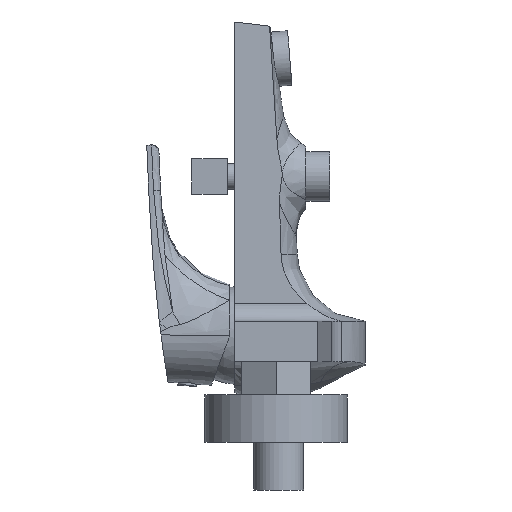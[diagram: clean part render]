
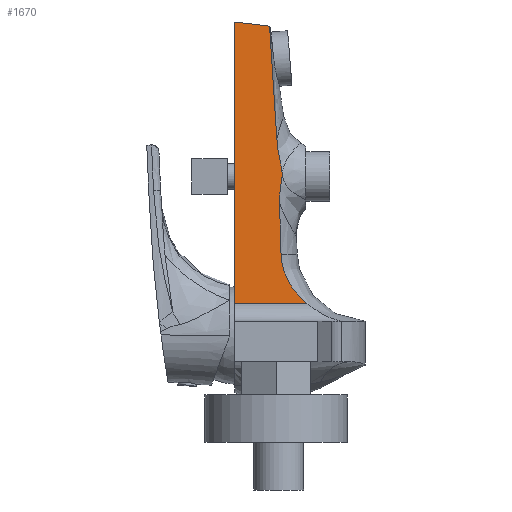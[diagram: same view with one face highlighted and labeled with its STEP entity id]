
A CAD part, left-side view. The second image highlights one B-rep face of the part: STEP entity #1670.
In plain terms, the highlighted planar face has unit normal (-0.999, 0, 0.042).
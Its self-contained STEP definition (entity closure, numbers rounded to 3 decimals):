
#54=B_SPLINE_CURVE_WITH_KNOTS('',3,(#2487,#2488,#2489,#2490,#2491,#2492,
#2493,#2494),.UNSPECIFIED.,.F.,.F.,(4,2,2,4),(0.,0.96,2.009,
2.404),.UNSPECIFIED.);
#55=B_SPLINE_CURVE_WITH_KNOTS('',3,(#2496,#2497,#2498,#2499),
 .UNSPECIFIED.,.F.,.F.,(4,4),(0.222,0.392),
 .UNSPECIFIED.);
#56=B_SPLINE_CURVE_WITH_KNOTS('',3,(#2501,#2502,#2503,#2504,#2505,#2506,
#2507,#2508,#2509,#2510,#2511,#2512,#2513,#2514,#2515,#2516,#2517,#2518,
#2519,#2520,#2521,#2522,#2523,#2524,#2525,#2526),.UNSPECIFIED.,.F.,.F.,
(4,2,2,2,2,2,2,2,2,2,2,2,4),(0.,0.272,1.08,1.845,
1.894,1.917,1.934,1.952,1.98,
2.061,2.188,2.607,3.653),
 .UNSPECIFIED.);
#57=B_SPLINE_CURVE_WITH_KNOTS('',3,(#2528,#2529,#2530,#2531,#2532,#2533),
 .UNSPECIFIED.,.F.,.F.,(4,2,4),(0.612,0.727,1.),
 .UNSPECIFIED.);
#210=FACE_OUTER_BOUND('',#307,.T.);
#307=EDGE_LOOP('',(#1087,#1088,#1089,#1090,#1091,#1092,#1093));
#424=LINE('',#2481,#537);
#426=LINE('',#2535,#539);
#427=LINE('',#2536,#540);
#537=VECTOR('',#1970,10.);
#539=VECTOR('',#1976,10.);
#540=VECTOR('',#1977,10.);
#656=VERTEX_POINT('',#2457);
#657=VERTEX_POINT('',#2480);
#659=VERTEX_POINT('',#2486);
#660=VERTEX_POINT('',#2495);
#661=VERTEX_POINT('',#2500);
#662=VERTEX_POINT('',#2527);
#663=VERTEX_POINT('',#2534);
#826=EDGE_CURVE('',#656,#657,#424,.T.);
#829=EDGE_CURVE('',#656,#659,#54,.F.);
#830=EDGE_CURVE('',#659,#660,#55,.T.);
#831=EDGE_CURVE('',#660,#661,#56,.F.);
#832=EDGE_CURVE('',#661,#662,#57,.T.);
#833=EDGE_CURVE('',#663,#662,#426,.T.);
#834=EDGE_CURVE('',#657,#663,#427,.T.);
#1087=ORIENTED_EDGE('',*,*,#826,.F.);
#1088=ORIENTED_EDGE('',*,*,#829,.T.);
#1089=ORIENTED_EDGE('',*,*,#830,.T.);
#1090=ORIENTED_EDGE('',*,*,#831,.T.);
#1091=ORIENTED_EDGE('',*,*,#832,.T.);
#1092=ORIENTED_EDGE('',*,*,#833,.F.);
#1093=ORIENTED_EDGE('',*,*,#834,.F.);
#1518=PLANE('',#1793);
#1670=ADVANCED_FACE('',(#210),#1518,.T.);
#1793=AXIS2_PLACEMENT_3D('',#2485,#1974,#1975);
#1970=DIRECTION('',(0.,1.,0.));
#1974=DIRECTION('center_axis',(-0.999,0.,0.042));
#1975=DIRECTION('ref_axis',(0.042,0.,0.999));
#1976=DIRECTION('',(-0.005,-0.993,-0.119));
#1977=DIRECTION('',(0.042,0.,0.999));
#2457=CARTESIAN_POINT('',(-21.465,-30.417,24.665));
#2480=CARTESIAN_POINT('',(-21.465,0.,24.665));
#2481=CARTESIAN_POINT('',(-21.465,-13.75,24.665));
#2485=CARTESIAN_POINT('Origin',(-21.787,0.,17.));
#2486=CARTESIAN_POINT('',(-20.606,-19.555,45.133));
#2487=CARTESIAN_POINT('Ctrl Pts',(-20.606,-19.555,45.133));
#2488=CARTESIAN_POINT('Ctrl Pts',(-20.74,-19.63,41.936));
#2489=CARTESIAN_POINT('Ctrl Pts',(-20.87,-20.338,38.842));
#2490=CARTESIAN_POINT('Ctrl Pts',(-21.127,-23.017,32.714));
#2491=CARTESIAN_POINT('Ctrl Pts',(-21.249,-25.054,29.817));
#2492=CARTESIAN_POINT('Ctrl Pts',(-21.393,-28.413,26.378));
#2493=CARTESIAN_POINT('Ctrl Pts',(-21.43,-29.39,25.492));
#2494=CARTESIAN_POINT('Ctrl Pts',(-21.465,-30.417,24.665));
#2495=CARTESIAN_POINT('',(-19.708,-18.933,66.531));
#2496=CARTESIAN_POINT('Ctrl Pts',(-20.606,-19.555,45.133));
#2497=CARTESIAN_POINT('Ctrl Pts',(-20.306,-19.388,52.299));
#2498=CARTESIAN_POINT('Ctrl Pts',(-20.006,-19.181,59.432));
#2499=CARTESIAN_POINT('Ctrl Pts',(-19.708,-18.933,66.531));
#2500=CARTESIAN_POINT('',(-18.564,-17.772,93.805));
#2501=CARTESIAN_POINT('Ctrl Pts',(-18.564,-17.772,93.805));
#2502=CARTESIAN_POINT('Ctrl Pts',(-18.602,-17.817,92.902));
#2503=CARTESIAN_POINT('Ctrl Pts',(-18.64,-17.894,92.001));
#2504=CARTESIAN_POINT('Ctrl Pts',(-18.79,-18.304,88.426));
#2505=CARTESIAN_POINT('Ctrl Pts',(-18.887,-18.811,86.104));
#2506=CARTESIAN_POINT('Ctrl Pts',(-19.044,-19.614,82.357));
#2507=CARTESIAN_POINT('Ctrl Pts',(-19.104,-19.91,80.934));
#2508=CARTESIAN_POINT('Ctrl Pts',(-19.168,-19.99,79.401));
#2509=CARTESIAN_POINT('Ctrl Pts',(-19.172,-19.994,79.308));
#2510=CARTESIAN_POINT('Ctrl Pts',(-19.178,-19.998,79.172));
#2511=CARTESIAN_POINT('Ctrl Pts',(-19.18,-19.999,79.13));
#2512=CARTESIAN_POINT('Ctrl Pts',(-19.183,-20.001,79.056));
#2513=CARTESIAN_POINT('Ctrl Pts',(-19.184,-20.001,79.024));
#2514=CARTESIAN_POINT('Ctrl Pts',(-19.187,-20.002,78.959));
#2515=CARTESIAN_POINT('Ctrl Pts',(-19.188,-20.003,78.925));
#2516=CARTESIAN_POINT('Ctrl Pts',(-19.192,-20.003,78.838));
#2517=CARTESIAN_POINT('Ctrl Pts',(-19.194,-20.004,78.786));
#2518=CARTESIAN_POINT('Ctrl Pts',(-19.203,-20.003,78.58));
#2519=CARTESIAN_POINT('Ctrl Pts',(-19.209,-19.999,78.427));
#2520=CARTESIAN_POINT('Ctrl Pts',(-19.226,-19.985,78.036));
#2521=CARTESIAN_POINT('Ctrl Pts',(-19.236,-19.97,77.799));
#2522=CARTESIAN_POINT('Ctrl Pts',(-19.279,-19.886,76.773));
#2523=CARTESIAN_POINT('Ctrl Pts',(-19.312,-19.767,75.969));
#2524=CARTESIAN_POINT('Ctrl Pts',(-19.443,-19.284,72.855));
#2525=CARTESIAN_POINT('Ctrl Pts',(-19.562,-18.811,70.026));
#2526=CARTESIAN_POINT('Ctrl Pts',(-19.708,-18.933,66.531));
#2527=CARTESIAN_POINT('',(-16.574,-14.729,141.233));
#2528=CARTESIAN_POINT('Ctrl Pts',(-18.564,-17.772,93.805));
#2529=CARTESIAN_POINT('Ctrl Pts',(-18.365,-17.533,98.552));
#2530=CARTESIAN_POINT('Ctrl Pts',(-18.166,-17.276,103.284));
#2531=CARTESIAN_POINT('Ctrl Pts',(-17.5,-16.347,119.162));
#2532=CARTESIAN_POINT('Ctrl Pts',(-17.035,-15.59,130.24));
#2533=CARTESIAN_POINT('Ctrl Pts',(-16.574,-14.729,141.233));
#2534=CARTESIAN_POINT('',(-16.5,0.,143.));
#2535=CARTESIAN_POINT('',(-16.5,0.,143.));
#2536=CARTESIAN_POINT('',(-21.787,0.,17.));
